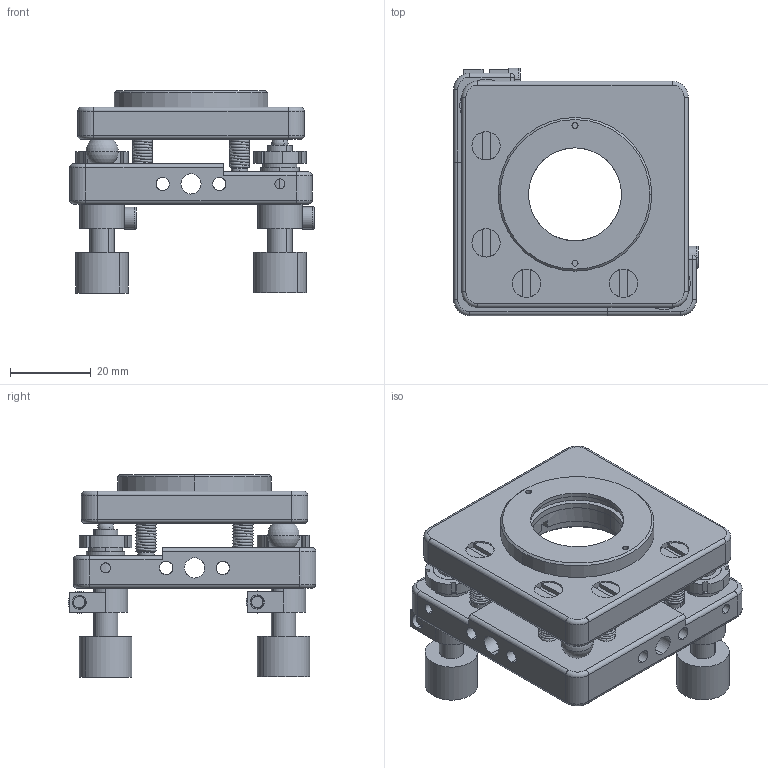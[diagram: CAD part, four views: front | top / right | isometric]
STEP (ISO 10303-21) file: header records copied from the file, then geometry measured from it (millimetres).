
FILE_DESCRIPTION (( 'STEP AP203' ), '1' );
FILE_NAME ('7MM06254謗峎覃淕噩殤.STEP', '2018-01-24T01:54:04', ( '' ), ( '' ), 'SwSTEP 2.0', 'SolidWorks 2014', '' );
FILE_SCHEMA (( 'CONFIG_CONTROL_DESIGN' ));
Length unit declared in the file: millimetre
Products named in the file (1): 7MM06254謗峎覃淕噩殤
Bounding box: 60.5 x 61.25 x 50 mm (x, y, z)
Surface area: 23136.5 mm2 (no closed solid volume)
Topology: 0 solids, 40 shells, 356 faces, 1012 edges, 675 vertices
Faces by surface type: plane 157, cylinder 149, torus 18, cone 14, sphere 10, bspline 8
Entity records: 22457 total; most frequent: CARTESIAN_POINT 13108, DIRECTION 2088, ORIENTED_EDGE 1661, EDGE_CURVE 989, AXIS2_PLACEMENT_3D 808, VERTEX_POINT 666, VECTOR 472, LINE 472
